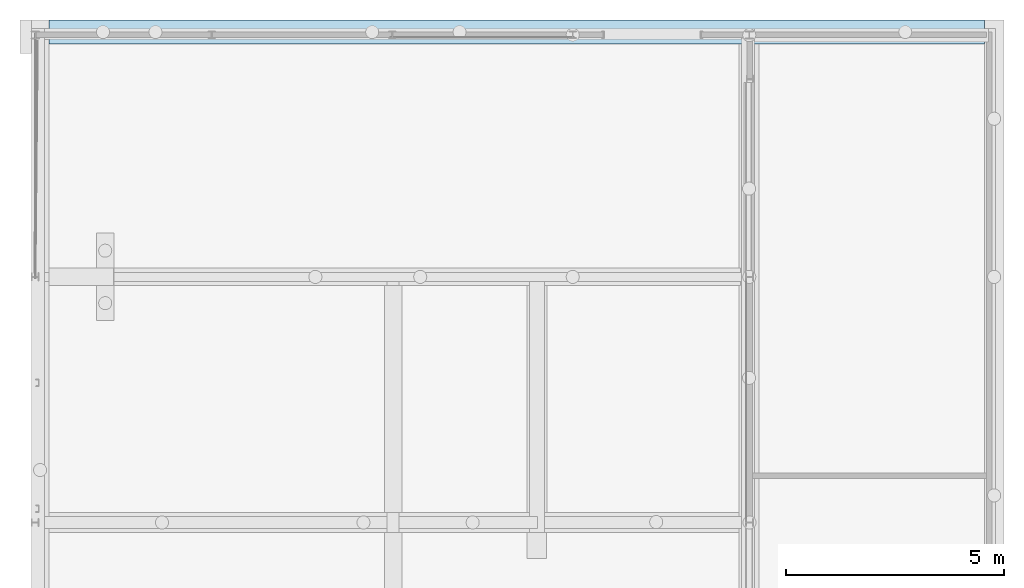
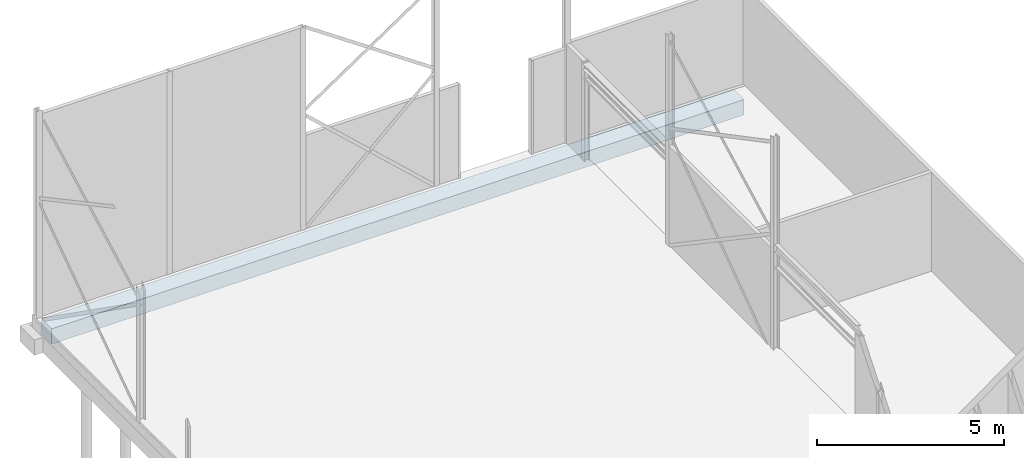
# One storey, part 17 of 17: 1 footing.
"""IFC2X3 building model written with IfcOpenShell, lengths in millimetres."""

from ifc_helpers import new_model, entity, si_unit, converted_unit, derived_unit, direction, frame, origin, place, context, subcontext, project, spatial, faceted_brep, source, transform, mapped, material, type_object, type_shapes, element, save


model = new_model("IFC2X3")

# Units and contexts
model_context = context("Model", 3, precision=0.01, world=origin(), true_north=direction((6.123031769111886e-17, 1.0)))
plan_context = context("Plan", 3, precision=0.01, world=origin(), true_north=direction((6.123031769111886e-17, 1.0)))
body_context = subcontext(model_context, "Body", "Model", "MODEL_VIEW")
ifc_project = project(units=[si_unit("LENGTHUNIT", "METRE", prefix="MILLI"), si_unit("AREAUNIT", "SQUARE_METRE"), si_unit("VOLUMEUNIT", "CUBIC_METRE"), converted_unit("PLANEANGLEUNIT", "DEGREE", entity("IfcPlaneAngleMeasure", 0.017453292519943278), si_unit("PLANEANGLEUNIT", "RADIAN"), dimensions=[0, 0, 0, 0, 0, 0, 0]), si_unit("MASSUNIT", "GRAM", prefix="KILO"), derived_unit("MASSDENSITYUNIT", [(si_unit("MASSUNIT", "GRAM", prefix="KILO"), 1), (si_unit("LENGTHUNIT", "METRE"), -3)]), derived_unit("IONCONCENTRATIONUNIT", [(si_unit("MASSUNIT", "GRAM", prefix="KILO"), 1), (si_unit("LENGTHUNIT", "METRE"), -3)]), derived_unit("MOMENTOFINERTIAUNIT", [(si_unit("LENGTHUNIT", "METRE"), 4)]), si_unit("TIMEUNIT", "SECOND"), si_unit("FREQUENCYUNIT", "HERTZ"), si_unit("THERMODYNAMICTEMPERATUREUNIT", "DEGREE_CELSIUS"), derived_unit("THERMALTRANSMITTANCEUNIT", [(si_unit("MASSUNIT", "GRAM", prefix="KILO"), 1), (si_unit("THERMODYNAMICTEMPERATUREUNIT", "KELVIN"), -1), (si_unit("TIMEUNIT", "SECOND"), -3)]), derived_unit("THERMALCONDUCTANCEUNIT", [(si_unit("MASSUNIT", "GRAM", prefix="KILO"), 1), (si_unit("THERMODYNAMICTEMPERATUREUNIT", "KELVIN"), -1), (si_unit("TIMEUNIT", "SECOND"), -3), (si_unit("LENGTHUNIT", "METRE"), 1)]), derived_unit("VOLUMETRICFLOWRATEUNIT", [(si_unit("LENGTHUNIT", "METRE", prefix="DECI"), 3), (si_unit("TIMEUNIT", "SECOND"), -1)]), derived_unit("MASSFLOWRATEUNIT", [(si_unit("MASSUNIT", "GRAM", prefix="KILO"), 1), (si_unit("TIMEUNIT", "SECOND"), -1)]), derived_unit("ROTATIONALFREQUENCYUNIT", [(si_unit("TIMEUNIT", "SECOND"), -1)]), si_unit("ELECTRICCURRENTUNIT", "AMPERE"), si_unit("ELECTRICVOLTAGEUNIT", "VOLT"), si_unit("POWERUNIT", "WATT"), si_unit("FORCEUNIT", "NEWTON", prefix="KILO"), si_unit("ILLUMINANCEUNIT", "LUX"), si_unit("LUMINOUSFLUXUNIT", "LUMEN"), si_unit("LUMINOUSINTENSITYUNIT", "CANDELA"), si_unit("ENERGYUNIT", "JOULE"), derived_unit("USERDEFINED", [(si_unit("MASSUNIT", "GRAM", prefix="KILO"), -1), (si_unit("LENGTHUNIT", "METRE"), -2), (si_unit("TIMEUNIT", "SECOND"), 3), (si_unit("LUMINOUSFLUXUNIT", "LUMEN"), 1)]), derived_unit("USERDEFINED", [(si_unit("MASSUNIT", "GRAM", prefix="KILO"), 1), (si_unit("TIMEUNIT", "SECOND"), -3), (si_unit("LENGTHUNIT", "METRE"), 3), (si_unit("ELECTRICCURRENTUNIT", "AMPERE"), -2)]), derived_unit("SOUNDPOWERUNIT", [(si_unit("MASSUNIT", "GRAM", prefix="KILO"), 1), (si_unit("TIMEUNIT", "SECOND"), -3), (si_unit("LENGTHUNIT", "METRE"), 2)]), derived_unit("SOUNDPRESSUREUNIT", [(si_unit("MASSUNIT", "GRAM", prefix="KILO"), 1), (si_unit("LENGTHUNIT", "METRE"), -1), (si_unit("TIMEUNIT", "SECOND"), -2)]), derived_unit("LINEARVELOCITYUNIT", [(si_unit("LENGTHUNIT", "METRE"), 1), (si_unit("TIMEUNIT", "SECOND"), -1)]), si_unit("PRESSUREUNIT", "PASCAL"), derived_unit("USERDEFINED", [(si_unit("MASSUNIT", "GRAM", prefix="KILO"), 1), (si_unit("LENGTHUNIT", "METRE"), -2), (si_unit("TIMEUNIT", "SECOND"), -2)]), derived_unit("LINEARFORCEUNIT", [(si_unit("MASSUNIT", "GRAM", prefix="KILO"), 1), (si_unit("TIMEUNIT", "SECOND"), -2)]), derived_unit("PLANARFORCEUNIT", [(si_unit("MASSUNIT", "GRAM", prefix="KILO"), 1), (si_unit("LENGTHUNIT", "METRE"), -1), (si_unit("TIMEUNIT", "SECOND"), -2)]), derived_unit("SPECIFICHEATCAPACITYUNIT", [(si_unit("THERMODYNAMICTEMPERATUREUNIT", "KELVIN"), -1), (si_unit("LENGTHUNIT", "METRE"), 2), (si_unit("TIMEUNIT", "SECOND"), -2)]), derived_unit("HEATFLUXDENSITYUNIT", [(si_unit("MASSUNIT", "GRAM", prefix="KILO"), 1), (si_unit("TIMEUNIT", "SECOND"), -3)]), derived_unit("HEATINGVALUEUNIT", [(si_unit("LENGTHUNIT", "METRE"), 2), (si_unit("TIMEUNIT", "SECOND"), -2)]), derived_unit("VAPORPERMEABILITYUNIT", [(si_unit("LENGTHUNIT", "METRE"), -1), (si_unit("TIMEUNIT", "SECOND"), 1)]), derived_unit("DYNAMICVISCOSITYUNIT", [(si_unit("MASSUNIT", "GRAM", prefix="KILO"), 1), (si_unit("TIMEUNIT", "SECOND"), -1), (si_unit("LENGTHUNIT", "METRE"), -1)]), derived_unit("THERMALEXPANSIONCOEFFICIENTUNIT", [(si_unit("THERMODYNAMICTEMPERATUREUNIT", "KELVIN"), -1)]), derived_unit("MODULUSOFELASTICITYUNIT", [(si_unit("MASSUNIT", "GRAM", prefix="KILO"), 1), (si_unit("LENGTHUNIT", "METRE"), -1), (si_unit("TIMEUNIT", "SECOND"), -2)]), derived_unit("ISOTHERMALMOISTURECAPACITYUNIT", [(si_unit("MASSUNIT", "GRAM", prefix="KILO"), -1), (si_unit("LENGTHUNIT", "METRE"), 3)]), derived_unit("MOISTUREDIFFUSIVITYUNIT", [(si_unit("TIMEUNIT", "SECOND"), -1), (si_unit("LENGTHUNIT", "METRE"), 2)]), derived_unit("MASSPERLENGTHUNIT", [(si_unit("MASSUNIT", "GRAM", prefix="KILO"), 1), (si_unit("LENGTHUNIT", "METRE"), -1)]), derived_unit("THERMALRESISTANCEUNIT", [(si_unit("MASSUNIT", "GRAM", prefix="KILO"), -1), (si_unit("TIMEUNIT", "SECOND"), 3), (si_unit("THERMODYNAMICTEMPERATUREUNIT", "KELVIN"), 1)]), derived_unit("ACCELERATIONUNIT", [(si_unit("LENGTHUNIT", "METRE"), 1), (si_unit("TIMEUNIT", "SECOND"), -2)]), derived_unit("ANGULARVELOCITYUNIT", [(si_unit("TIMEUNIT", "SECOND"), -1), (si_unit("PLANEANGLEUNIT", "RADIAN"), 1)]), derived_unit("LINEARSTIFFNESSUNIT", [(si_unit("MASSUNIT", "GRAM", prefix="KILO"), 1), (si_unit("TIMEUNIT", "SECOND"), -2)]), derived_unit("WARPINGCONSTANTUNIT", [(si_unit("LENGTHUNIT", "METRE"), 6)]), derived_unit("LINEARMOMENTUNIT", [(si_unit("MASSUNIT", "GRAM", prefix="KILO"), 1), (si_unit("LENGTHUNIT", "METRE"), 1), (si_unit("TIMEUNIT", "SECOND"), -2)]), derived_unit("TORQUEUNIT", [(si_unit("MASSUNIT", "GRAM", prefix="KILO"), 1), (si_unit("LENGTHUNIT", "METRE"), 2), (si_unit("TIMEUNIT", "SECOND"), -2)])], contexts=[model_context, plan_context])

# Site, building, storey
site_placement = place(None, origin())
site = spatial("IfcSite", under=ifc_project, at=site_placement, Name="Default", CompositionType="ELEMENT")
building_placement = place(site_placement, origin())
building = spatial("IfcBuilding", under=site, at=building_placement, CompositionType="ELEMENT")
storey_placement = place(building_placement, origin())
storey = spatial("IfcBuildingStorey", under=building, at=storey_placement, Name="00 begane grond", CompositionType="ELEMENT", Elevation=0.0)

# Footing
ifc_material = material(Name="ihwg beton")
type_product = type_object("IfcTypeProduct", Name="16_SF_LIB_funderingsbalk_dw:550x500 (ihwg)", material=ifc_material)
shared_shape = source(origin(), body_context, "Body", "Brep", [
    faceted_brep([(0.0, 0.0, 0.0), (0.0, 0.0, 500.0), (0.0, 550.0, 500.0), (0.0, 550.0, 0.0), (21410.0, 0.0, 500.0), (21410.0, 550.0, 500.0), (15800.0, 0.0, 500.0), (16250.0, 0.0, 500.0), (15800.0, 0.0, 0.0), (16250.0, 0.0, 0.0), (21410.00000000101, 0.0, 0.0), (19600.0, 125.0, 0.0), (19561.177143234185, 130.11112605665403, 0.0), (16159.903810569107, 129.50016764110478, 0.0), (16136.066017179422, 98.43415046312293, 0.0), (16174.888873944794, 165.6773108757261, 0.0), (16105.000000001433, 74.59635707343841, 0.0), (19638.822856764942, 130.11112605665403, 0.0), (16030.000000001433, 54.50016764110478, 0.0), (16068.822856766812, 59.61129369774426, 0.0), (15955.000000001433, 74.59635707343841, 0.0), (15991.177143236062, 59.61129369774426, 0.0), (19675.0, 145.09618943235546, 0.0), (19729.903810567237, 200.0, 0.0), (19744.88887394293, 236.17714323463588, 0.0), (19706.066017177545, 168.9339828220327, 0.0), (19525.0, 145.09618943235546, 0.0), (16180.000000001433, 204.50016764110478, 0.0), (19493.93398282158, 168.9339828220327, 0.0), (19470.096189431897, 200.0, 0.0), (19455.11112605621, 236.17714323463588, 0.0), (16174.888873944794, 243.32302440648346, 0.0), (19750.0, 275.0, 0.0), (12065.0, 80.09635707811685, 0.0), (12096.066017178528, 103.93415046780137, 0.0), (12028.822856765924, 65.1112937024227, 0.0), (15900.096189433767, 129.50016764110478, 0.0), (15923.933982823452, 98.43415046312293, 0.0), (15885.111126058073, 165.6773108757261, 0.0), (12119.90381056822, 135.00016764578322, 0.0), (11990.0, 60.00016764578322, 0.0), (9438.822856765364, 130.11112605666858, 0.0), (11951.177143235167, 65.1112937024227, 0.0), (9400.0, 125.0, 0.0), (11883.933982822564, 103.93415046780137, 0.0), (11915.0, 80.09635707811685, 0.0), (9475.0, 145.09618943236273, 0.0), (12140.0, 210.00016764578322, 0.0), (12134.888873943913, 171.17731088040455, 0.0), (15880.000000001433, 204.50016764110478, 0.0), (15885.111126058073, 243.32302440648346, 0.0), (9506.066017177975, 168.93398282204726, 0.0), (11860.096189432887, 135.0001676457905, 0.0), (9529.90381056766, 200.0, 0.0), (11840.0, 210.0001676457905, 0.0), (11845.111126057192, 171.17731088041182, 0.0), (9544.888873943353, 236.17714323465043, 0.0), (12134.888873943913, 248.8230244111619, 0.0), (19450.0, 275.0, 0.0), (19744.88887394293, 313.8228567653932, 0.0), (21410.00000000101, 550.0, 0.0), (19455.11112605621, 313.8228567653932, 0.0), (16159.903810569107, 279.5001676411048, 0.0), (19470.096189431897, 350.0, 0.0), (19493.93398282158, 381.0660171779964, 0.0), (16136.066017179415, 310.56618481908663, 0.0), (16105.000000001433, 334.4039782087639, 0.0), (16068.822856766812, 349.3890415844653, 0.0), (19525.0, 404.9038105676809, 0.0), (19729.903810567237, 350.0, 0.0), (19706.066017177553, 381.0660171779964, 0.0), (19675.0, 404.9038105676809, 0.0), (19638.822856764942, 419.8888739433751, 0.0), (19600.0, 425.0, 0.0), (16030.000000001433, 354.5001676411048, 0.0), (19561.177143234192, 419.8888739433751, 0.0), (11990.0, 360.0001676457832, 0.0), (15991.177143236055, 349.3890415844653, 0.0), (12028.822856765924, 354.88904158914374, 0.0), (15900.096189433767, 279.5001676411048, 0.0), (15923.933982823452, 310.56618481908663, 0.0), (12119.90381056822, 285.0001676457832, 0.0), (12096.066017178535, 316.06618482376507, 0.0), (9550.0, 275.0, 0.0), (11845.111126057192, 248.8230244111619, 0.0), (9544.888873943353, 313.8228567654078, 0.0), (9529.90381056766, 350.0, 0.0), (11883.933982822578, 316.06618482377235, 0.0), (11860.096189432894, 285.0001676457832, 0.0), (15955.000000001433, 334.4039782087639, 0.0), (12065.0, 339.9039782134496, 0.0), (9400.0, 425.0, 0.0), (9475.0, 404.9038105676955, 0.0), (11951.177143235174, 354.88904158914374, 0.0), (11915.0, 339.9039782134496, 0.0), (9506.066017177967, 381.06601717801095, 0.0), (9438.822856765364, 419.8888739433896, 0.0), (7438.822856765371, 130.11112605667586, 0.0), (9325.0, 145.09618943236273, 0.0), (9361.177143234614, 130.11112605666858, 0.0), (9293.93398282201, 168.93398282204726, 0.0), (7475.0, 145.09618943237, 0.0), (7506.066017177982, 168.93398282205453, 0.0), (7400.0, 125.0, 0.0), (2478.8228567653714, 130.11112605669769, 0.0), (7325.0, 145.09618943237, 0.0), (7361.177143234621, 130.11112605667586, 0.0), (2546.0660171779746, 168.93398282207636, 0.0), (7270.096189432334, 200.0, 0.0), (7293.933982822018, 168.93398282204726, 0.0), (2515.0, 145.09618943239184, 0.0), (7529.903810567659, 200.0, 0.0), (9255.111126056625, 236.17714323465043, 0.0), (9270.096189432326, 200.0, 0.0), (9250.0, 275.0, 0.0), (7544.888873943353, 236.1771432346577, 0.0), (7550.0, 275.0, 0.0), (7544.888873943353, 313.82285676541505, 0.0), (2584.8888739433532, 236.17714323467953, 0.0), (7255.111126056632, 236.1771432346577, 0.0), (2569.903810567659, 200.0, 0.0), (7250.0, 275.0, 0.0), (2590.0, 275.0, 0.0), (2440.0, 125.0, 0.0), (2401.177143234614, 130.11112605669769, 0.0), (1240.0, 125.0, 0.0), (1278.8228567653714, 130.11112605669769, 0.0), (2365.0, 145.09618943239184, 0.0), (1201.177143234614, 130.11112605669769, 0.0), (1165.0, 145.09618943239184, 0.0), (1315.0, 145.09618943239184, 0.0), (2333.933982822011, 168.93398282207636, 0.0), (1133.9339828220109, 168.93398282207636, 0.0), (2295.111126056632, 236.17714323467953, 0.0), (2310.0961894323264, 200.0, 0.0), (1369.903810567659, 200.0, 0.0), (1346.0660171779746, 168.93398282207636, 0.0), (1110.0961894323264, 200.0, 0.0), (1384.8888739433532, 236.17714323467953, 0.0), (2290.0, 275.0, 0.0), (1095.1111260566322, 236.17714323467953, 0.0), (1090.0, 275.0, 0.0), (9255.111126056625, 313.8228567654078, 0.0), (7529.903810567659, 350.0, 0.0), (7506.066017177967, 381.0660171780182, 0.0), (9293.933982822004, 381.06601717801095, 0.0), (9270.096189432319, 350.0, 0.0), (2584.8888739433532, 313.8228567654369, 0.0), (7255.111126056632, 313.8228567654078, 0.0), (2569.903810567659, 350.0, 0.0), (7270.096189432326, 350.0, 0.0), (2546.0660171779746, 381.06601717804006, 0.0), (7475.0, 404.90381056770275, 0.0), (9325.0, 404.9038105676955, 0.0), (7438.822856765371, 419.8888739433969, 0.0), (7400.0, 425.0, 0.0), (9361.177143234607, 419.8888739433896, 0.0), (2515.0, 404.9038105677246, 0.0), (7325.0, 404.90381056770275, 0.0), (7293.933982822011, 381.0660171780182, 0.0), (2440.0, 425.0, 0.0), (7361.177143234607, 419.8888739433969, 0.0), (2478.8228567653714, 419.88887394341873, 0.0), (2295.111126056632, 313.8228567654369, 0.0), (1384.8888739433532, 313.8228567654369, 0.0), (1369.903810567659, 350.0, 0.0), (2310.0961894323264, 350.0, 0.0), (1346.0660171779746, 381.06601717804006, 0.0), (2333.933982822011, 381.06601717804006, 0.0), (1390.0, 275.0, 0.0), (1095.1111260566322, 313.8228567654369, 0.0), (1110.0961894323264, 350.0, 0.0), (1315.0, 404.9038105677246, 0.0), (2401.177143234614, 419.88887394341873, 0.0), (2365.0, 404.9038105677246, 0.0), (1278.8228567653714, 419.88887394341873, 0.0), (1240.0, 425.0, 0.0), (1165.0, 404.9038105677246, 0.0), (1133.9339828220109, 381.06601717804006, 0.0), (1201.177143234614, 419.88887394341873, 0.0), (12065.0, 80.09635707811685, 20.0), (12028.822856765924, 65.1112937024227, 20.0), (12134.888873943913, 171.17731088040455, 20.0), (12096.066017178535, 103.93415046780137, 20.0), (12119.90381056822, 135.00016764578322, 20.0), (11990.0, 60.00016764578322, 20.0), (12140.0, 210.00016764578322, 20.0), (11951.177143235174, 65.1112937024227, 20.0), (11915.0, 80.09635707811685, 20.0), (11860.096189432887, 135.00016764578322, 20.0), (11883.933982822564, 103.93415046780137, 20.0), (11845.111126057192, 171.17731088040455, 20.0), (12134.888873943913, 248.8230244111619, 20.0), (12096.066017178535, 316.06618482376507, 20.0), (12119.90381056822, 285.0001676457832, 20.0), (12065.0, 339.9039782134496, 20.0), (11990.0, 360.0001676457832, 20.0), (12028.822856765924, 354.88904158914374, 20.0), (11883.933982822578, 316.06618482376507, 20.0), (11845.111126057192, 248.8230244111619, 20.0), (11860.096189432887, 285.0001676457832, 20.0), (11840.0, 210.00016764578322, 20.0), (11915.0, 339.9039782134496, 20.0), (11951.177143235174, 354.88904158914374, 20.0), (7475.0, 145.09618943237, 20.0), (7438.822856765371, 130.11112605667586, 20.0), (7544.888873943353, 236.1771432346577, 20.0), (7506.066017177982, 168.93398282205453, 20.0), (7529.903810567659, 200.0, 20.0), (7400.0, 125.0, 20.0), (7550.0, 275.0, 20.0), (7361.177143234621, 130.11112605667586, 20.0), (7325.0, 145.09618943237, 20.0), (7270.096189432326, 200.0, 20.0), (7293.933982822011, 168.93398282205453, 20.0), (7255.111126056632, 236.1771432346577, 20.0), (7544.888873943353, 313.82285676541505, 20.0), (7506.066017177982, 381.0660171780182, 20.0), (7529.903810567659, 350.0, 20.0), (7475.0, 404.90381056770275, 20.0), (7400.0, 425.0, 20.0), (7438.822856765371, 419.8888739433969, 20.0), (7293.933982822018, 381.0660171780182, 20.0), (7255.111126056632, 313.82285676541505, 20.0), (7270.096189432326, 350.0, 20.0), (7250.0, 275.0, 20.0), (7325.0, 404.90381056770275, 20.0), (7361.177143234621, 419.8888739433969, 20.0), (9475.0, 145.09618943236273, 20.0), (9438.822856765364, 130.11112605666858, 20.0), (9544.888873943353, 236.17714323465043, 20.0), (9506.066017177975, 168.93398282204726, 20.0), (9529.90381056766, 200.0, 20.0), (9400.0, 125.0, 20.0), (9550.0, 275.0, 20.0), (9361.177143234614, 130.11112605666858, 20.0), (9325.0, 145.09618943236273, 20.0), (9270.096189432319, 200.0, 20.0), (9293.933982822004, 168.93398282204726, 20.0), (9255.111126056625, 236.17714323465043, 20.0), (9544.888873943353, 313.8228567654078, 20.0), (9506.066017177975, 381.06601717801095, 20.0), (9529.90381056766, 350.0, 20.0), (9475.0, 404.9038105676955, 20.0), (9400.0, 425.0, 20.0), (9438.822856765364, 419.8888739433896, 20.0), (9293.93398282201, 381.06601717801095, 20.0), (9255.111126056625, 313.8228567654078, 20.0), (9270.096189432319, 350.0, 20.0), (9250.0, 275.0, 20.0), (9325.0, 404.9038105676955, 20.0), (9361.177143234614, 419.8888739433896, 20.0), (16105.000000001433, 74.59635707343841, 20.0), (16068.822856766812, 59.61129369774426, 20.0), (16174.888873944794, 165.6773108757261, 20.0), (16136.066017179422, 98.43415046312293, 20.0), (16159.903810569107, 129.50016764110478, 20.0), (16030.000000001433, 54.50016764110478, 20.0), (16180.000000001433, 204.50016764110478, 20.0), (15991.177143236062, 59.61129369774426, 20.0), (15955.000000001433, 74.59635707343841, 20.0), (15900.096189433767, 129.50016764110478, 20.0), (15923.933982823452, 98.43415046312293, 20.0), (15885.111126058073, 165.6773108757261, 20.0), (16174.888873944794, 243.32302440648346, 20.0), (16136.066017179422, 310.56618481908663, 20.0), (16159.903810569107, 279.5001676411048, 20.0), (16105.000000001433, 334.4039782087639, 20.0), (16030.000000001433, 354.5001676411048, 20.0), (16068.822856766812, 349.3890415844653, 20.0), (15923.933982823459, 310.56618481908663, 20.0), (15885.111126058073, 243.32302440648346, 20.0), (15900.096189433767, 279.5001676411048, 20.0), (15880.000000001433, 204.50016764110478, 20.0), (15955.000000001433, 334.4039782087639, 20.0), (15991.177143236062, 349.3890415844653, 20.0), (19675.0, 145.09618943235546, 20.0), (19638.822856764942, 130.11112605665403, 20.0), (19744.88887394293, 236.17714323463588, 20.0), (19706.066017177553, 168.9339828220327, 20.0), (19729.903810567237, 200.0, 20.0), (19600.0, 125.0, 20.0), (19750.0, 275.0, 20.0), (19561.177143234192, 130.11112605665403, 20.0), (19525.0, 145.09618943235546, 20.0), (19470.096189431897, 200.0, 20.0), (19493.93398282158, 168.9339828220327, 20.0), (19455.11112605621, 236.17714323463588, 20.0), (19744.88887394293, 313.8228567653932, 20.0), (19706.066017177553, 381.0660171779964, 20.0), (19729.903810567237, 350.0, 20.0), (19675.0, 404.9038105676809, 20.0), (19600.0, 425.0, 20.0), (19638.822856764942, 419.8888739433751, 20.0), (19493.93398282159, 381.0660171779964, 20.0), (19455.11112605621, 313.8228567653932, 20.0), (19470.096189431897, 350.0, 20.0), (19450.0, 275.0, 20.0), (19525.0, 404.9038105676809, 20.0), (19561.177143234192, 419.8888739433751, 20.0), (1315.0, 145.09618943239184, 20.0), (1278.8228567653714, 130.11112605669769, 20.0), (1384.8888739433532, 236.17714323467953, 20.0), (1346.0660171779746, 168.93398282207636, 20.0), (1369.903810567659, 200.0, 20.0), (1240.0, 125.0, 20.0), (1390.0, 275.0, 20.0), (1201.177143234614, 130.11112605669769, 20.0), (1165.0, 145.09618943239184, 20.0), (1110.0961894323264, 200.0, 20.0), (1133.9339828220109, 168.93398282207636, 20.0), (1095.1111260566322, 236.17714323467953, 20.0), (1384.8888739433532, 313.8228567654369, 20.0), (1346.0660171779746, 381.06601717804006, 20.0), (1369.903810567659, 350.0, 20.0), (1315.0, 404.9038105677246, 20.0), (1240.0, 425.0, 20.0), (1278.8228567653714, 419.88887394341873, 20.0), (1133.9339828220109, 381.06601717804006, 20.0), (1095.1111260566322, 313.8228567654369, 20.0), (1110.0961894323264, 350.0, 20.0), (1090.0, 275.0, 20.0), (1165.0, 404.9038105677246, 20.0), (1201.177143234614, 419.88887394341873, 20.0), (2515.0, 145.09618943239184, 20.0), (2478.8228567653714, 130.11112605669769, 20.0), (2584.8888739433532, 236.17714323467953, 20.0), (2546.0660171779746, 168.93398282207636, 20.0), (2569.903810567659, 200.0, 20.0), (2440.0, 125.0, 20.0), (2590.0, 275.0, 20.0), (2401.177143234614, 130.11112605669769, 20.0), (2365.0, 145.09618943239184, 20.0), (2310.0961894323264, 200.0, 20.0), (2333.933982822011, 168.93398282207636, 20.0), (2295.111126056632, 236.17714323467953, 20.0), (2584.8888739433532, 313.8228567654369, 20.0), (2546.0660171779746, 381.06601717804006, 20.0), (2569.903810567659, 350.0, 20.0), (2515.0, 404.9038105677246, 20.0), (2440.0, 425.0, 20.0), (2478.8228567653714, 419.88887394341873, 20.0), (2333.933982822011, 381.06601717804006, 20.0), (2295.111126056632, 313.8228567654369, 20.0), (2310.0961894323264, 350.0, 20.0), (2290.0, 275.0, 20.0), (2365.0, 404.9038105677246, 20.0), (2401.177143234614, 419.88887394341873, 20.0)], [[[0, 1, 2, 3]], [[4, 5, 2, 1, 6, 7]], [[4, 7, 6, 1, 0, 8, 9, 10]], [[10, 9, 11]], [[11, 9, 12]], [[13, 9, 14]], [[15, 9, 13]], [[9, 16, 14]], [[10, 11, 17]], [[18, 19, 9]], [[20, 21, 8]], [[21, 18, 8]], [[19, 16, 9]], [[18, 9, 8]], [[17, 22, 10]], [[23, 24, 10]], [[25, 23, 10]], [[22, 25, 10]], [[9, 26, 12]], [[27, 9, 15]], [[9, 28, 26]], [[29, 28, 9]], [[29, 9, 30]], [[9, 27, 31]], [[10, 24, 32]], [[8, 33, 34]], [[33, 8, 35]], [[8, 36, 37]], [[38, 36, 8]], [[34, 39, 8]], [[8, 37, 20]], [[40, 35, 8]], [[41, 42, 43]], [[44, 45, 46]], [[41, 45, 42]], [[42, 40, 43]], [[8, 0, 40]], [[45, 41, 46]], [[47, 8, 48]], [[48, 8, 39]], [[49, 8, 50]], [[49, 38, 8]], [[44, 51, 52]], [[51, 44, 46]], [[52, 51, 53]], [[54, 55, 56]], [[53, 55, 52]], [[56, 55, 53]], [[47, 57, 8]], [[30, 9, 58]], [[32, 59, 60]], [[9, 61, 58]], [[61, 62, 63]], [[31, 62, 61]], [[64, 65, 66]], [[63, 62, 65]], [[61, 9, 31]], [[67, 68, 66]], [[69, 70, 60]], [[60, 71, 72]], [[71, 60, 70]], [[60, 72, 73]], [[69, 60, 59]], [[63, 65, 64]], [[74, 75, 67]], [[66, 68, 64]], [[68, 67, 75]], [[73, 75, 74]], [[74, 60, 73]], [[60, 74, 76]], [[77, 78, 74]], [[32, 60, 10]], [[50, 57, 79]], [[50, 8, 57]], [[80, 79, 81]], [[81, 79, 57]], [[82, 80, 81]], [[54, 83, 84]], [[84, 83, 85]], [[86, 87, 88]], [[85, 88, 84]], [[86, 88, 85]], [[89, 82, 90]], [[82, 89, 80]], [[76, 74, 78]], [[78, 77, 90]], [[60, 76, 91]], [[92, 93, 94]], [[94, 87, 95]], [[92, 96, 93]], [[95, 92, 94]], [[93, 96, 76]], [[86, 95, 87]], [[89, 90, 77]], [[54, 56, 83]], [[91, 76, 96]], [[97, 98, 99]], [[100, 98, 101]], [[97, 101, 98]], [[100, 101, 102]], [[99, 43, 103]], [[104, 105, 106]], [[107, 108, 109]], [[109, 105, 110]], [[103, 97, 99]], [[40, 103, 43]], [[111, 112, 113]], [[114, 115, 116]], [[112, 115, 114]], [[114, 116, 117]], [[100, 102, 113]], [[113, 102, 111]], [[118, 119, 120]], [[121, 119, 118]], [[121, 118, 122]], [[111, 115, 112]], [[119, 108, 120]], [[106, 103, 123]], [[124, 123, 125]], [[104, 110, 105]], [[124, 126, 127]], [[123, 104, 106]], [[125, 0, 128]], [[0, 125, 123]], [[128, 0, 129]], [[126, 130, 127]], [[131, 127, 130]], [[0, 132, 129]], [[125, 126, 124]], [[123, 103, 0]], [[133, 134, 135]], [[131, 136, 134]], [[107, 120, 108]], [[137, 132, 0]], [[135, 138, 133]], [[133, 138, 139]], [[137, 0, 140]], [[136, 135, 134]], [[131, 130, 136]], [[0, 141, 140]], [[110, 107, 109]], [[40, 0, 103]], [[142, 117, 143]], [[142, 114, 117]], [[144, 145, 146]], [[143, 146, 142]], [[144, 146, 143]], [[121, 147, 148]], [[148, 147, 149]], [[149, 150, 148]], [[151, 150, 149]], [[147, 121, 122]], [[145, 144, 152]], [[153, 152, 154]], [[153, 145, 152]], [[155, 91, 156]], [[154, 156, 153]], [[155, 156, 154]], [[157, 158, 159]], [[151, 159, 150]], [[157, 159, 151]], [[160, 155, 161]], [[158, 162, 161]], [[157, 162, 158]], [[91, 155, 3]], [[163, 139, 164]], [[165, 166, 163]], [[167, 168, 166]], [[169, 164, 139]], [[170, 141, 3]], [[165, 167, 166]], [[170, 3, 171]], [[164, 165, 163]], [[169, 139, 138]], [[168, 167, 172]], [[173, 174, 175]], [[174, 168, 172]], [[176, 160, 173]], [[162, 160, 161]], [[175, 174, 172]], [[177, 178, 3]], [[176, 179, 3]], [[3, 179, 177]], [[176, 3, 160]], [[178, 171, 3]], [[175, 176, 173]], [[160, 3, 155]], [[141, 0, 3]], [[91, 3, 60]], [[5, 60, 3, 2]], [[5, 4, 10, 60]], [[180, 181, 182]], [[183, 180, 184]], [[185, 182, 181]], [[184, 180, 182]], [[186, 182, 185]], [[187, 188, 185]], [[189, 185, 188]], [[190, 189, 188]], [[191, 185, 189]], [[191, 186, 185]], [[191, 192, 186]], [[193, 194, 192]], [[195, 193, 192]], [[196, 197, 195]], [[195, 191, 196]], [[191, 198, 196]], [[199, 200, 201]], [[198, 201, 200]], [[198, 202, 196]], [[198, 191, 201]], [[196, 202, 203]], [[191, 195, 192]], [[204, 205, 206]], [[207, 204, 208]], [[209, 206, 205]], [[208, 204, 206]], [[210, 206, 209]], [[211, 212, 209]], [[213, 209, 212]], [[214, 213, 212]], [[215, 209, 213]], [[215, 210, 209]], [[215, 216, 210]], [[217, 218, 216]], [[219, 217, 216]], [[220, 221, 219]], [[219, 215, 220]], [[215, 222, 220]], [[223, 224, 225]], [[222, 225, 224]], [[222, 226, 220]], [[222, 215, 225]], [[220, 226, 227]], [[215, 219, 216]], [[228, 229, 230]], [[231, 228, 232]], [[233, 230, 229]], [[232, 228, 230]], [[234, 230, 233]], [[235, 236, 233]], [[237, 233, 236]], [[238, 237, 236]], [[239, 233, 237]], [[239, 234, 233]], [[239, 240, 234]], [[241, 242, 240]], [[243, 241, 240]], [[244, 245, 243]], [[243, 239, 244]], [[239, 246, 244]], [[247, 248, 249]], [[246, 249, 248]], [[246, 250, 244]], [[246, 239, 249]], [[244, 250, 251]], [[239, 243, 240]], [[252, 253, 254]], [[255, 252, 256]], [[257, 254, 253]], [[256, 252, 254]], [[258, 254, 257]], [[259, 260, 257]], [[261, 257, 260]], [[262, 261, 260]], [[263, 257, 261]], [[263, 258, 257]], [[263, 264, 258]], [[265, 266, 264]], [[267, 265, 264]], [[268, 269, 267]], [[267, 263, 268]], [[263, 270, 268]], [[271, 272, 273]], [[270, 273, 272]], [[270, 274, 268]], [[270, 263, 273]], [[268, 274, 275]], [[263, 267, 264]], [[276, 277, 278]], [[279, 276, 280]], [[281, 278, 277]], [[280, 276, 278]], [[282, 278, 281]], [[283, 284, 281]], [[285, 281, 284]], [[286, 285, 284]], [[287, 281, 285]], [[287, 282, 281]], [[287, 288, 282]], [[289, 290, 288]], [[291, 289, 288]], [[292, 293, 291]], [[291, 287, 292]], [[287, 294, 292]], [[295, 296, 297]], [[294, 297, 296]], [[294, 298, 292]], [[294, 287, 297]], [[292, 298, 299]], [[287, 291, 288]], [[300, 301, 302]], [[303, 300, 304]], [[305, 302, 301]], [[304, 300, 302]], [[306, 302, 305]], [[307, 308, 305]], [[309, 305, 308]], [[310, 309, 308]], [[311, 305, 309]], [[311, 306, 305]], [[311, 312, 306]], [[313, 314, 312]], [[315, 313, 312]], [[316, 317, 315]], [[315, 311, 316]], [[311, 318, 316]], [[319, 320, 321]], [[318, 321, 320]], [[318, 322, 316]], [[318, 311, 321]], [[316, 322, 323]], [[311, 315, 312]], [[324, 325, 326]], [[327, 324, 328]], [[329, 326, 325]], [[328, 324, 326]], [[330, 326, 329]], [[331, 332, 329]], [[333, 329, 332]], [[334, 333, 332]], [[335, 329, 333]], [[335, 330, 329]], [[335, 336, 330]], [[337, 338, 336]], [[339, 337, 336]], [[340, 341, 339]], [[339, 335, 340]], [[335, 342, 340]], [[343, 344, 345]], [[342, 345, 344]], [[342, 346, 340]], [[342, 335, 345]], [[340, 346, 347]], [[335, 339, 336]], [[54, 201, 191, 55]], [[55, 191, 189, 52]], [[45, 44, 190, 188]], [[44, 52, 189, 190]], [[187, 42, 45, 188]], [[42, 187, 185, 40]], [[33, 35, 181, 180]], [[33, 180, 183, 34]], [[48, 39, 184, 182]], [[184, 39, 34, 183]], [[186, 47, 48, 182]], [[40, 185, 181, 35]], [[47, 186, 192, 57]], [[57, 192, 194, 81]], [[90, 82, 193, 195]], [[81, 194, 193, 82]], [[90, 195, 197, 78]], [[78, 197, 196, 76]], [[93, 76, 196, 203]], [[93, 203, 202, 94]], [[88, 87, 198, 200]], [[94, 202, 198, 87]], [[88, 200, 199, 84]], [[54, 84, 199, 201]], [[121, 225, 215, 119]], [[119, 215, 213, 108]], [[105, 109, 214, 212]], [[109, 108, 213, 214]], [[211, 106, 105, 212]], [[106, 211, 209, 103]], [[101, 97, 205, 204]], [[101, 204, 207, 102]], [[115, 111, 208, 206]], [[208, 111, 102, 207]], [[210, 116, 115, 206]], [[103, 209, 205, 97]], [[116, 210, 216, 117]], [[117, 216, 218, 143]], [[152, 144, 217, 219]], [[143, 218, 217, 144]], [[152, 219, 221, 154]], [[154, 221, 220, 155]], [[161, 155, 220, 227]], [[161, 227, 226, 158]], [[150, 159, 222, 224]], [[158, 226, 222, 159]], [[150, 224, 223, 148]], [[121, 148, 223, 225]], [[114, 249, 239, 112]], [[112, 239, 237, 113]], [[98, 100, 238, 236]], [[100, 113, 237, 238]], [[235, 99, 98, 236]], [[99, 235, 233, 43]], [[46, 41, 229, 228]], [[46, 228, 231, 51]], [[56, 53, 232, 230]], [[232, 53, 51, 231]], [[234, 83, 56, 230]], [[43, 233, 229, 41]], [[83, 234, 240, 85]], [[85, 240, 242, 86]], [[92, 95, 241, 243]], [[86, 242, 241, 95]], [[92, 243, 245, 96]], [[96, 245, 244, 91]], [[156, 91, 244, 251]], [[156, 251, 250, 153]], [[146, 145, 246, 248]], [[153, 250, 246, 145]], [[146, 248, 247, 142]], [[114, 142, 247, 249]], [[49, 273, 263, 38]], [[38, 263, 261, 36]], [[20, 37, 262, 260]], [[37, 36, 261, 262]], [[259, 21, 20, 260]], [[21, 259, 257, 18]], [[16, 19, 253, 252]], [[16, 252, 255, 14]], [[15, 13, 256, 254]], [[256, 13, 14, 255]], [[258, 27, 15, 254]], [[18, 257, 253, 19]], [[27, 258, 264, 31]], [[31, 264, 266, 62]], [[66, 65, 265, 267]], [[62, 266, 265, 65]], [[66, 267, 269, 67]], [[67, 269, 268, 74]], [[77, 74, 268, 275]], [[77, 275, 274, 89]], [[79, 80, 270, 272]], [[89, 274, 270, 80]], [[79, 272, 271, 50]], [[49, 50, 271, 273]], [[58, 297, 287, 30]], [[30, 287, 285, 29]], [[26, 28, 286, 284]], [[28, 29, 285, 286]], [[283, 12, 26, 284]], [[12, 283, 281, 11]], [[22, 17, 277, 276]], [[22, 276, 279, 25]], [[24, 23, 280, 278]], [[280, 23, 25, 279]], [[282, 32, 24, 278]], [[11, 281, 277, 17]], [[32, 282, 288, 59]], [[59, 288, 290, 69]], [[71, 70, 289, 291]], [[69, 290, 289, 70]], [[71, 291, 293, 72]], [[72, 293, 292, 73]], [[75, 73, 292, 299]], [[75, 299, 298, 68]], [[63, 64, 294, 296]], [[68, 298, 294, 64]], [[63, 296, 295, 61]], [[58, 61, 295, 297]], [[141, 321, 311, 140]], [[140, 311, 309, 137]], [[129, 132, 310, 308]], [[132, 137, 309, 310]], [[307, 128, 129, 308]], [[128, 307, 305, 125]], [[130, 126, 301, 300]], [[130, 300, 303, 136]], [[138, 135, 304, 302]], [[304, 135, 136, 303]], [[306, 169, 138, 302]], [[125, 305, 301, 126]], [[169, 306, 312, 164]], [[164, 312, 314, 165]], [[172, 167, 313, 315]], [[165, 314, 313, 167]], [[172, 315, 317, 175]], [[175, 317, 316, 176]], [[179, 176, 316, 323]], [[179, 323, 322, 177]], [[171, 178, 318, 320]], [[177, 322, 318, 178]], [[171, 320, 319, 170]], [[141, 170, 319, 321]], [[139, 345, 335, 133]], [[133, 335, 333, 134]], [[127, 131, 334, 332]], [[131, 134, 333, 334]], [[331, 124, 127, 332]], [[124, 331, 329, 123]], [[110, 104, 325, 324]], [[110, 324, 327, 107]], [[118, 120, 328, 326]], [[328, 120, 107, 327]], [[330, 122, 118, 326]], [[123, 329, 325, 104]], [[122, 330, 336, 147]], [[147, 336, 338, 149]], [[157, 151, 337, 339]], [[149, 338, 337, 151]], [[157, 339, 341, 162]], [[162, 341, 340, 160]], [[173, 160, 340, 347]], [[173, 347, 346, 174]], [[166, 168, 342, 344]], [[174, 346, 342, 168]], [[166, 344, 343, 163]], [[139, 163, 343, 345]]]),
])
type_shapes(type_product, [shared_shape])
footing_placement = place(storey_placement, frame((34466.192937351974, 38442.67034020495, -970.0)))
element("IfcFooting", 1, at=footing_placement, inside=storey, type_object=type_product, material=ifc_material, Name="16_SF_LIB_funderingsbalk_dw:550x500 (ihwg)", ObjectType="16_SF_LIB_funderingsbalk_dw:550x500 (ihwg)", context=body_context, shape_type="MappedRepresentation", body=[
    mapped(shared_shape, transform((0.0, 0.0, 0.0), scale=1.0)),
])

save(model, "model.ifc")
